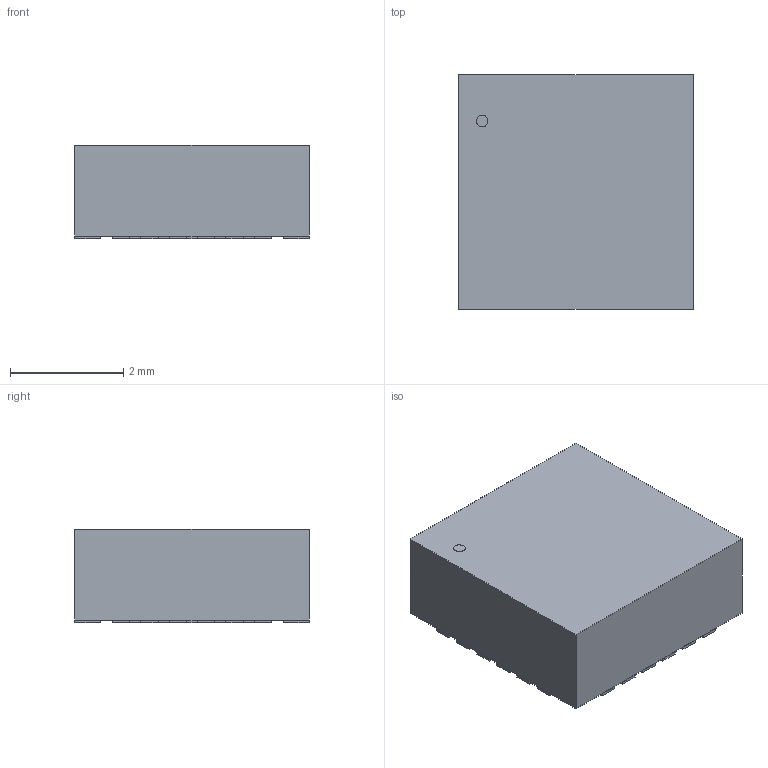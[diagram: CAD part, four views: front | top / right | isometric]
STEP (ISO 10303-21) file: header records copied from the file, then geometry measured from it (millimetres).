
FILE_DESCRIPTION(('STEP AP214'),'1');
FILE_NAME('QFN_PQTR_STM','2026-01-09T08:49:34',(''),(''),'','','');
FILE_SCHEMA(('AUTOMOTIVE_DESIGN'));
Length unit declared in the file: millimetre
Products named in the file (1): product
Bounding box: 4.14 x 4.14 x 1.65 mm (x, y, z)
Volume: 28 mm3; surface area: 85.6 mm2
Topology: 27 solids, 27 shells, 159 faces, 315 edges, 210 vertices
Faces by surface type: plane 158, cylinder 1
Full cylindrical faces by diameter (mm): 0.207 x1
Entity records: 3973 total; most frequent: DIRECTION 638, ORIENTED_EDGE 628, CARTESIAN_POINT 373, EDGE_CURVE 314, LINE 312, VECTOR 312, VERTEX_POINT 210, AXIS2_PLACEMENT_3D 163
